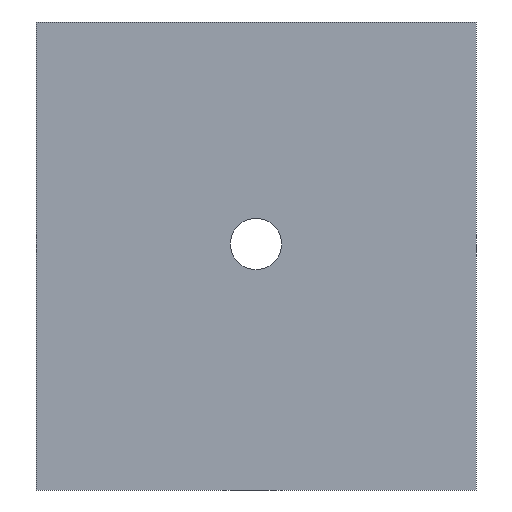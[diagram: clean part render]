
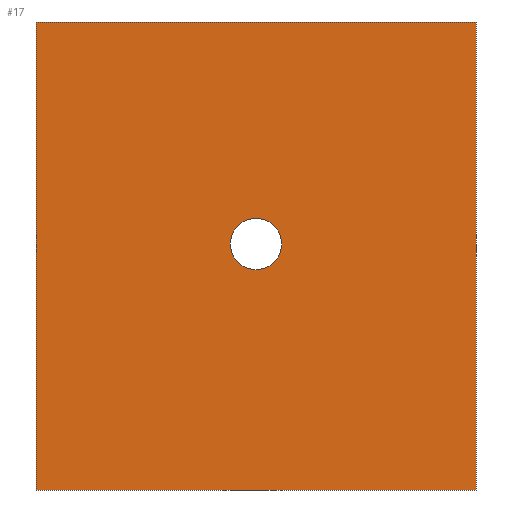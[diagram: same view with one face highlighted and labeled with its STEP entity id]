
A CAD part, left-side view. The second image highlights one B-rep face of the part: STEP entity #17.
In plain terms, the highlighted planar face has unit normal (-1, 0, 0).
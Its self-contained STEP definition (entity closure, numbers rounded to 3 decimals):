
#17 = ADVANCED_FACE('',(#18,#137),#32,.F.);
#18 = FACE_BOUND('',#19,.F.);
#19 = EDGE_LOOP('',(#20,#55,#83,#111));
#20 = ORIENTED_EDGE('',*,*,#21,.F.);
#21 = EDGE_CURVE('',#22,#24,#26,.T.);
#22 = VERTEX_POINT('',#23);
#23 = CARTESIAN_POINT('',(0.,-27.5,0.));
#24 = VERTEX_POINT('',#25);
#25 = CARTESIAN_POINT('',(0.,-27.5,58.5));
#26 = SURFACE_CURVE('',#27,(#31,#43),.PCURVE_S1.);
#27 = LINE('',#28,#29);
#28 = CARTESIAN_POINT('',(0.,-27.5,0.));
#29 = VECTOR('',#30,1.);
#30 = DIRECTION('',(0.,0.,1.));
#31 = PCURVE('',#32,#37);
#32 = PLANE('',#33);
#33 = AXIS2_PLACEMENT_3D('',#34,#35,#36);
#34 = CARTESIAN_POINT('',(0.,-27.5,0.));
#35 = DIRECTION('',(1.,0.,0.));
#36 = DIRECTION('',(0.,0.,1.));
#37 = DEFINITIONAL_REPRESENTATION('',(#38),#42);
#38 = LINE('',#39,#40);
#39 = CARTESIAN_POINT('',(0.,0.));
#40 = VECTOR('',#41,1.);
#41 = DIRECTION('',(1.,0.));
#42 = ( GEOMETRIC_REPRESENTATION_CONTEXT(2) 
PARAMETRIC_REPRESENTATION_CONTEXT() REPRESENTATION_CONTEXT('2D SPACE',''
  ) );
#43 = PCURVE('',#44,#49);
#44 = PLANE('',#45);
#45 = AXIS2_PLACEMENT_3D('',#46,#47,#48);
#46 = CARTESIAN_POINT('',(0.,-27.5,0.));
#47 = DIRECTION('',(0.,1.,0.));
#48 = DIRECTION('',(0.,0.,1.));
#49 = DEFINITIONAL_REPRESENTATION('',(#50),#54);
#50 = LINE('',#51,#52);
#51 = CARTESIAN_POINT('',(0.,0.));
#52 = VECTOR('',#53,1.);
#53 = DIRECTION('',(1.,0.));
#54 = ( GEOMETRIC_REPRESENTATION_CONTEXT(2) 
PARAMETRIC_REPRESENTATION_CONTEXT() REPRESENTATION_CONTEXT('2D SPACE',''
  ) );
#55 = ORIENTED_EDGE('',*,*,#56,.T.);
#56 = EDGE_CURVE('',#22,#57,#59,.T.);
#57 = VERTEX_POINT('',#58);
#58 = CARTESIAN_POINT('',(0.,27.5,0.));
#59 = SURFACE_CURVE('',#60,(#64,#71),.PCURVE_S1.);
#60 = LINE('',#61,#62);
#61 = CARTESIAN_POINT('',(0.,-27.5,0.));
#62 = VECTOR('',#63,1.);
#63 = DIRECTION('',(0.,1.,0.));
#64 = PCURVE('',#32,#65);
#65 = DEFINITIONAL_REPRESENTATION('',(#66),#70);
#66 = LINE('',#67,#68);
#67 = CARTESIAN_POINT('',(0.,0.));
#68 = VECTOR('',#69,1.);
#69 = DIRECTION('',(0.,-1.));
#70 = ( GEOMETRIC_REPRESENTATION_CONTEXT(2) 
PARAMETRIC_REPRESENTATION_CONTEXT() REPRESENTATION_CONTEXT('2D SPACE',''
  ) );
#71 = PCURVE('',#72,#77);
#72 = PLANE('',#73);
#73 = AXIS2_PLACEMENT_3D('',#74,#75,#76);
#74 = CARTESIAN_POINT('',(0.,-27.5,0.));
#75 = DIRECTION('',(0.,0.,1.));
#76 = DIRECTION('',(1.,0.,0.));
#77 = DEFINITIONAL_REPRESENTATION('',(#78),#82);
#78 = LINE('',#79,#80);
#79 = CARTESIAN_POINT('',(0.,0.));
#80 = VECTOR('',#81,1.);
#81 = DIRECTION('',(0.,1.));
#82 = ( GEOMETRIC_REPRESENTATION_CONTEXT(2) 
PARAMETRIC_REPRESENTATION_CONTEXT() REPRESENTATION_CONTEXT('2D SPACE',''
  ) );
#83 = ORIENTED_EDGE('',*,*,#84,.F.);
#84 = EDGE_CURVE('',#85,#57,#87,.T.);
#85 = VERTEX_POINT('',#86);
#86 = CARTESIAN_POINT('',(0.,27.5,58.5));
#87 = SURFACE_CURVE('',#88,(#92,#99),.PCURVE_S1.);
#88 = LINE('',#89,#90);
#89 = CARTESIAN_POINT('',(0.,27.5,58.5));
#90 = VECTOR('',#91,1.);
#91 = DIRECTION('',(0.,0.,-1.));
#92 = PCURVE('',#32,#93);
#93 = DEFINITIONAL_REPRESENTATION('',(#94),#98);
#94 = LINE('',#95,#96);
#95 = CARTESIAN_POINT('',(58.5,-55.));
#96 = VECTOR('',#97,1.);
#97 = DIRECTION('',(-1.,0.));
#98 = ( GEOMETRIC_REPRESENTATION_CONTEXT(2) 
PARAMETRIC_REPRESENTATION_CONTEXT() REPRESENTATION_CONTEXT('2D SPACE',''
  ) );
#99 = PCURVE('',#100,#105);
#100 = PLANE('',#101);
#101 = AXIS2_PLACEMENT_3D('',#102,#103,#104);
#102 = CARTESIAN_POINT('',(0.,27.5,0.));
#103 = DIRECTION('',(0.,1.,0.));
#104 = DIRECTION('',(0.,0.,1.));
#105 = DEFINITIONAL_REPRESENTATION('',(#106),#110);
#106 = LINE('',#107,#108);
#107 = CARTESIAN_POINT('',(58.5,0.));
#108 = VECTOR('',#109,1.);
#109 = DIRECTION('',(-1.,0.));
#110 = ( GEOMETRIC_REPRESENTATION_CONTEXT(2) 
PARAMETRIC_REPRESENTATION_CONTEXT() REPRESENTATION_CONTEXT('2D SPACE',''
  ) );
#111 = ORIENTED_EDGE('',*,*,#112,.F.);
#112 = EDGE_CURVE('',#24,#85,#113,.T.);
#113 = SURFACE_CURVE('',#114,(#118,#125),.PCURVE_S1.);
#114 = LINE('',#115,#116);
#115 = CARTESIAN_POINT('',(0.,-27.5,58.5));
#116 = VECTOR('',#117,1.);
#117 = DIRECTION('',(0.,1.,0.));
#118 = PCURVE('',#32,#119);
#119 = DEFINITIONAL_REPRESENTATION('',(#120),#124);
#120 = LINE('',#121,#122);
#121 = CARTESIAN_POINT('',(58.5,0.));
#122 = VECTOR('',#123,1.);
#123 = DIRECTION('',(0.,-1.));
#124 = ( GEOMETRIC_REPRESENTATION_CONTEXT(2) 
PARAMETRIC_REPRESENTATION_CONTEXT() REPRESENTATION_CONTEXT('2D SPACE',''
  ) );
#125 = PCURVE('',#126,#131);
#126 = PLANE('',#127);
#127 = AXIS2_PLACEMENT_3D('',#128,#129,#130);
#128 = CARTESIAN_POINT('',(0.,-27.5,58.5));
#129 = DIRECTION('',(0.,0.,1.));
#130 = DIRECTION('',(1.,0.,0.));
#131 = DEFINITIONAL_REPRESENTATION('',(#132),#136);
#132 = LINE('',#133,#134);
#133 = CARTESIAN_POINT('',(0.,0.));
#134 = VECTOR('',#135,1.);
#135 = DIRECTION('',(0.,1.));
#136 = ( GEOMETRIC_REPRESENTATION_CONTEXT(2) 
PARAMETRIC_REPRESENTATION_CONTEXT() REPRESENTATION_CONTEXT('2D SPACE',''
  ) );
#137 = FACE_BOUND('',#138,.F.);
#138 = EDGE_LOOP('',(#139));
#139 = ORIENTED_EDGE('',*,*,#140,.F.);
#140 = EDGE_CURVE('',#141,#141,#143,.T.);
#141 = VERTEX_POINT('',#142);
#142 = CARTESIAN_POINT('',(-0.,3.2,30.75));
#143 = SURFACE_CURVE('',#144,(#149,#156),.PCURVE_S1.);
#144 = CIRCLE('',#145,3.2);
#145 = AXIS2_PLACEMENT_3D('',#146,#147,#148);
#146 = CARTESIAN_POINT('',(0.,0.,30.75));
#147 = DIRECTION('',(1.,0.,0.));
#148 = DIRECTION('',(0.,1.,0.));
#149 = PCURVE('',#32,#150);
#150 = DEFINITIONAL_REPRESENTATION('',(#151),#155);
#151 = CIRCLE('',#152,3.2);
#152 = AXIS2_PLACEMENT_2D('',#153,#154);
#153 = CARTESIAN_POINT('',(30.75,-27.5));
#154 = DIRECTION('',(0.,-1.));
#155 = ( GEOMETRIC_REPRESENTATION_CONTEXT(2) 
PARAMETRIC_REPRESENTATION_CONTEXT() REPRESENTATION_CONTEXT('2D SPACE',''
  ) );
#156 = PCURVE('',#157,#162);
#157 = CYLINDRICAL_SURFACE('',#158,3.2);
#158 = AXIS2_PLACEMENT_3D('',#159,#160,#161);
#159 = CARTESIAN_POINT('',(0.,0.,30.75));
#160 = DIRECTION('',(1.,0.,0.));
#161 = DIRECTION('',(0.,1.,0.));
#162 = DEFINITIONAL_REPRESENTATION('',(#163),#167);
#163 = LINE('',#164,#165);
#164 = CARTESIAN_POINT('',(0.,0.));
#165 = VECTOR('',#166,1.);
#166 = DIRECTION('',(1.,0.));
#167 = ( GEOMETRIC_REPRESENTATION_CONTEXT(2) 
PARAMETRIC_REPRESENTATION_CONTEXT() REPRESENTATION_CONTEXT('2D SPACE',''
  ) );
